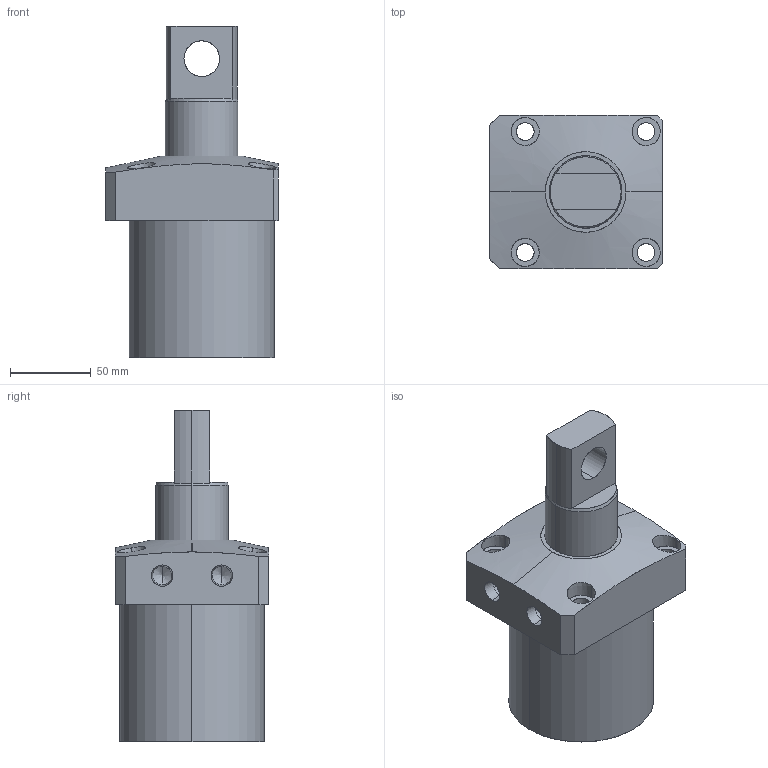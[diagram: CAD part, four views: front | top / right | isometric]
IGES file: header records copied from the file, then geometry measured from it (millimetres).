
Start section: SolidWorks IGES file using analytic representation for surfaces
Global section: file name: E:\ALL SSVT IGS MODEL\ALL-SWING-IGS\SWING-90\SC02-901-902-LH-RH-TOP-PTYPE\SC02-901-RP-TOP-PTYPE.IGS; native system: SolidWorks 2019; preprocessor: SolidWorks 2019; author: SSVT; date: 210823.131739; units: millimetre
Bounding box: 107 x 95 x 205.5 mm (x, y, z)
Surface area: 103677.9 mm2 (no closed solid volume)
Topology: 0 solids, 0 shells, 71 faces, 1687 edges, 1683 vertices
Faces by surface type: revolution 47, bspline 24
